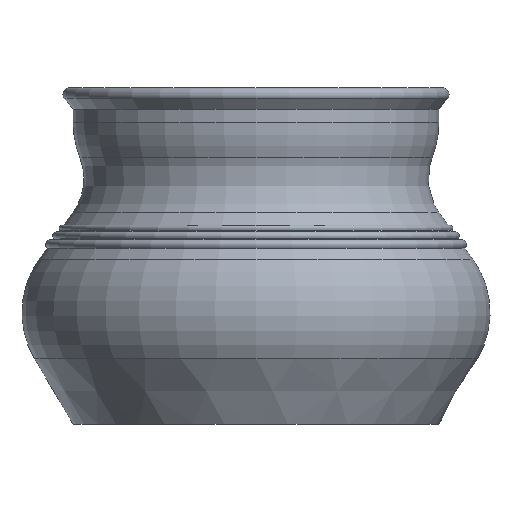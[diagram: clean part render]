
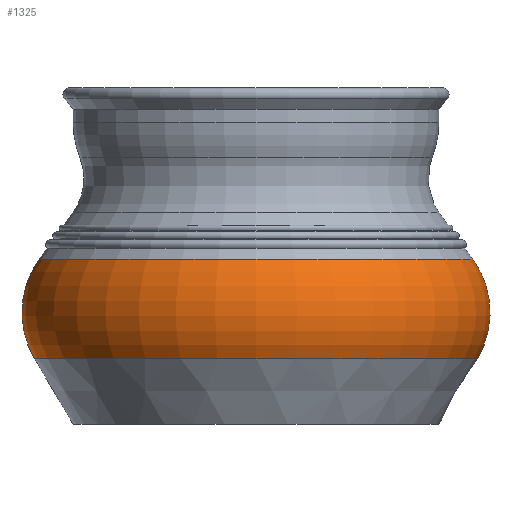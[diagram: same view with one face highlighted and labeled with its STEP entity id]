
A CAD part, front view. The second image highlights one B-rep face of the part: STEP entity #1325.
In plain terms, the highlighted toroidal (fillet/blend) face has major radius 106.473 mm and minor radius 67.527 mm.
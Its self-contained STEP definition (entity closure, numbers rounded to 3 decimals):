
#22=TOROIDAL_SURFACE('',#1504,106.473,67.527);
#166=FACE_OUTER_BOUND('',#284,.T.);
#284=EDGE_LOOP('',(#1208,#1209,#1210,#1211));
#526=CIRCLE('',#1467,164.68);
#549=CIRCLE('',#1505,161.242);
#550=CIRCLE('',#1506,67.527);
#653=VERTEX_POINT('',#2237);
#669=VERTEX_POINT('',#2326);
#818=EDGE_CURVE('',#653,#653,#526,.T.);
#849=EDGE_CURVE('',#669,#669,#549,.T.);
#850=EDGE_CURVE('',#669,#653,#550,.T.);
#1208=ORIENTED_EDGE('',*,*,#849,.F.);
#1209=ORIENTED_EDGE('',*,*,#850,.T.);
#1210=ORIENTED_EDGE('',*,*,#818,.T.);
#1211=ORIENTED_EDGE('',*,*,#850,.F.);
#1325=ADVANCED_FACE('',(#166),#22,.T.);
#1467=AXIS2_PLACEMENT_3D('',#2238,#1836,#1837);
#1504=AXIS2_PLACEMENT_3D('',#2325,#1918,#1919);
#1505=AXIS2_PLACEMENT_3D('',#2327,#1920,#1921);
#1506=AXIS2_PLACEMENT_3D('',#2328,#1922,#1923);
#1836=DIRECTION('center_axis',(0.,0.,1.));
#1837=DIRECTION('ref_axis',(1.,0.,0.));
#1918=DIRECTION('center_axis',(0.,0.,1.));
#1919=DIRECTION('ref_axis',(1.,0.,0.));
#1920=DIRECTION('center_axis',(0.,0.,1.));
#1921=DIRECTION('ref_axis',(1.,0.,0.));
#1922=DIRECTION('center_axis',(0.,-1.,0.));
#1923=DIRECTION('ref_axis',(-1.,0.,0.));
#2237=CARTESIAN_POINT('',(-164.68,0.,48.768));
#2238=CARTESIAN_POINT('Origin',(0.,0.,48.768));
#2325=CARTESIAN_POINT('Origin',(0.,0.,83.));
#2326=CARTESIAN_POINT('',(-161.242,0.,122.5));
#2327=CARTESIAN_POINT('Origin',(0.,0.,122.5));
#2328=CARTESIAN_POINT('Origin',(-106.473,0.,83.));
